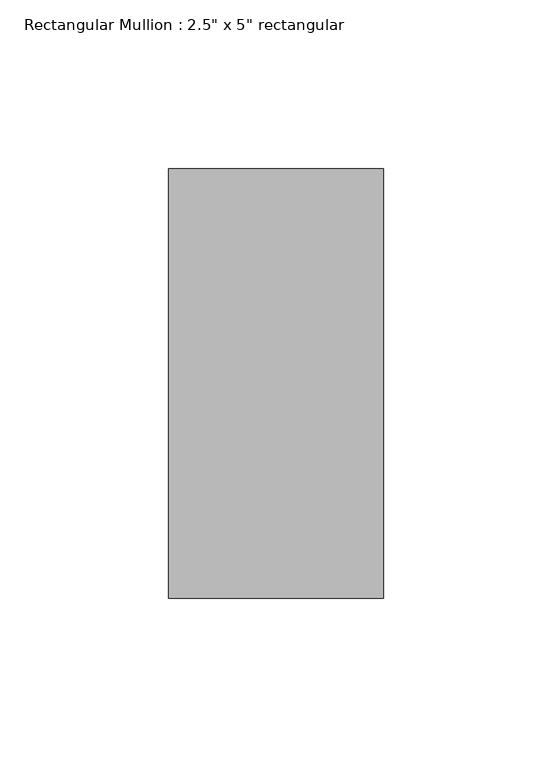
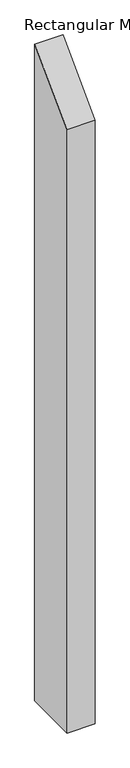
"""IFC4 building model written with IfcOpenShell, lengths in millimetres: member geometry."""

from ifc_helpers import new_model, si_unit, frame, origin, place, context, project, spatial, polyline, outline, extrude, source, transform, mapped, element, save


def member_c5546333(model_context):
    return source(origin(), model_context, "Body", "SweptSolid", [
        extrude(outline(polyline([(-50.8, -50.8), (76.2, 76.2), (76.2, -1492.885), (-50.8, -1492.885), (-50.8, -50.8)])), frame((-63.5, 0.0, 0.0), z_axis=(1.0, 0.0, 0.0), x_axis=(0.0, 1.0, 0.0)), (0.0, 0.0, 1.0), 63.5),
    ])


if __name__ == "__main__":
    model = new_model("IFC4")
    model_context = context("Model", 3, world=origin())
    ifc_project = project(units=[si_unit("LENGTHUNIT", "METRE", prefix="MILLI")], contexts=[model_context])
    site = spatial("IfcSite", under=ifc_project)
    building = spatial("IfcBuilding", under=site)
    placement = place(None, origin())
    member_shape = member_c5546333(model_context)
    element("IfcMember", 1, ObjectType="Rectangular Mullion : 2.5\" x 5\" rectangular", at=placement, inside=building, context=model_context, shape_type="MappedRepresentation", body=[
        mapped(member_shape, transform((0.0, 0.0, 0.0), x_axis=(1.0, 0.0, 0.0), y_axis=(0.0, 1.0, 0.0), z_axis=(0.0, 0.0, 1.0))),
    ])
    save(model, "model.ifc")
